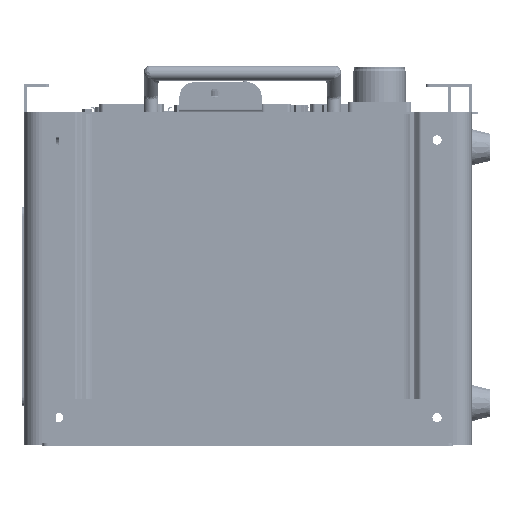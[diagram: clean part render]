
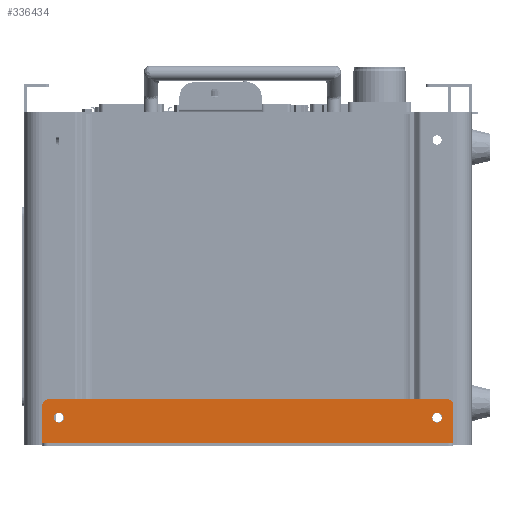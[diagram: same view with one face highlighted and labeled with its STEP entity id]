
A CAD part, left-side view. The second image highlights one B-rep face of the part: STEP entity #336434.
In plain terms, the highlighted planar face has unit normal (-1, 0, 0).
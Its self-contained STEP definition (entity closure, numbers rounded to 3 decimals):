
#335999=DIRECTION('',(0.,0.,1.));
#336000=VECTOR('',#335999,20.6);
#336001=CARTESIAN_POINT('',(19.5,0.,2.));
#336002=LINE('',#336001,#336000);
#336003=CARTESIAN_POINT('',(19.5,216.,15.6));
#336004=DIRECTION('',(-1.,0.,0.));
#336005=DIRECTION('',(0.,0.,1.));
#336006=AXIS2_PLACEMENT_3D('',#336003,#336004,#336005);
#336008=CARTESIAN_POINT('',(19.5,216.,15.6));
#336009=DIRECTION('',(-1.,0.,0.));
#336010=DIRECTION('',(0.,0.,-1.));
#336011=AXIS2_PLACEMENT_3D('',#336008,#336009,#336010);
#336013=CARTESIAN_POINT('',(19.5,9.,15.6));
#336014=DIRECTION('',(-1.,0.,0.));
#336015=DIRECTION('',(0.,0.,1.));
#336016=AXIS2_PLACEMENT_3D('',#336013,#336014,#336015);
#336018=CARTESIAN_POINT('',(19.5,9.,15.6));
#336019=DIRECTION('',(-1.,0.,0.));
#336020=DIRECTION('',(0.,0.,-1.));
#336021=AXIS2_PLACEMENT_3D('',#336018,#336019,#336020);
#336023=CARTESIAN_POINT('',(19.5,222.,22.6));
#336024=DIRECTION('',(-1.,0.,0.));
#336025=DIRECTION('',(0.,0.,1.));
#336026=AXIS2_PLACEMENT_3D('',#336023,#336024,#336025);
#336028=CARTESIAN_POINT('',(19.5,3.,22.6));
#336029=DIRECTION('',(-1.,0.,0.));
#336030=DIRECTION('',(0.,-1.,0.));
#336031=AXIS2_PLACEMENT_3D('',#336028,#336029,#336030);
#336033=DIRECTION('',(0.,1.,0.));
#336034=VECTOR('',#336033,225.);
#336035=CARTESIAN_POINT('',(19.5,0.,2.));
#336036=LINE('',#336035,#336034);
#336099=DIRECTION('',(0.,1.,0.));
#336100=VECTOR('',#336099,219.);
#336101=CARTESIAN_POINT('',(19.5,3.,25.6));
#336102=LINE('',#336101,#336100);
#336124=DIRECTION('',(0.,0.,1.));
#336125=VECTOR('',#336124,20.6);
#336126=CARTESIAN_POINT('',(19.5,225.,2.));
#336127=LINE('',#336126,#336125);
#336276=CARTESIAN_POINT('',(19.5,0.,2.));
#336277=CARTESIAN_POINT('',(19.5,225.,2.));
#336278=VERTEX_POINT('',#336276);
#336279=VERTEX_POINT('',#336277);
#336312=CARTESIAN_POINT('',(19.5,216.,18.35));
#336313=CARTESIAN_POINT('',(19.5,216.,12.85));
#336314=VERTEX_POINT('',#336312);
#336315=VERTEX_POINT('',#336313);
#336316=CARTESIAN_POINT('',(19.5,9.,18.35));
#336317=CARTESIAN_POINT('',(19.5,9.,12.85));
#336318=VERTEX_POINT('',#336316);
#336319=VERTEX_POINT('',#336317);
#336348=CARTESIAN_POINT('',(19.5,222.,25.6));
#336349=VERTEX_POINT('',#336348);
#336350=CARTESIAN_POINT('',(19.5,225.,22.6));
#336351=VERTEX_POINT('',#336350);
#336352=CARTESIAN_POINT('',(19.5,0.,22.6));
#336353=CARTESIAN_POINT('',(19.5,3.,25.6));
#336354=VERTEX_POINT('',#336352);
#336355=VERTEX_POINT('',#336353);
#336405=CARTESIAN_POINT('',(19.5,0.,2.));
#336406=DIRECTION('',(-1.,0.,0.));
#336407=DIRECTION('',(0.,0.,1.));
#336408=AXIS2_PLACEMENT_3D('',#336405,#336406,#336407);
#336409=PLANE('',#336408);
#336411=ORIENTED_EDGE('',*,*,#336410,.F.);
#336413=ORIENTED_EDGE('',*,*,#336412,.F.);
#336414=ORIENTED_EDGE('',*,*,#336395,.F.);
#336415=ORIENTED_EDGE('',*,*,#336385,.F.);
#336417=ORIENTED_EDGE('',*,*,#336416,.T.);
#336419=ORIENTED_EDGE('',*,*,#336418,.T.);
#336420=EDGE_LOOP('',(#336411,#336413,#336414,#336415,#336417,#336419));
#336421=FACE_OUTER_BOUND('',#336420,.F.);
#336423=ORIENTED_EDGE('',*,*,#336422,.T.);
#336425=ORIENTED_EDGE('',*,*,#336424,.T.);
#336426=EDGE_LOOP('',(#336423,#336425));
#336427=FACE_BOUND('',#336426,.F.);
#336429=ORIENTED_EDGE('',*,*,#336428,.T.);
#336431=ORIENTED_EDGE('',*,*,#336430,.T.);
#336432=EDGE_LOOP('',(#336429,#336431));
#336433=FACE_BOUND('',#336432,.F.);
#336434=ADVANCED_FACE('',(#336421,#336427,#336433),#336409,.T.);
#336007=CIRCLE('',#336006,2.75);
#336012=CIRCLE('',#336011,2.75);
#336017=CIRCLE('',#336016,2.75);
#336022=CIRCLE('',#336021,2.75);
#336027=CIRCLE('',#336026,3.);
#336032=CIRCLE('',#336031,3.);
#336385=EDGE_CURVE('',#336278,#336354,#336002,.T.);
#336395=EDGE_CURVE('',#336354,#336355,#336032,.T.);
#336410=EDGE_CURVE('',#336349,#336351,#336027,.T.);
#336412=EDGE_CURVE('',#336355,#336349,#336102,.T.);
#336416=EDGE_CURVE('',#336278,#336279,#336036,.T.);
#336418=EDGE_CURVE('',#336279,#336351,#336127,.T.);
#336422=EDGE_CURVE('',#336314,#336315,#336007,.T.);
#336424=EDGE_CURVE('',#336315,#336314,#336012,.T.);
#336428=EDGE_CURVE('',#336318,#336319,#336017,.T.);
#336430=EDGE_CURVE('',#336319,#336318,#336022,.T.);
